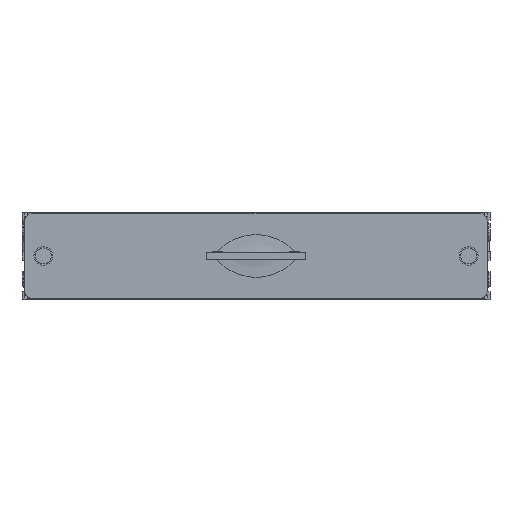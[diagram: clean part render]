
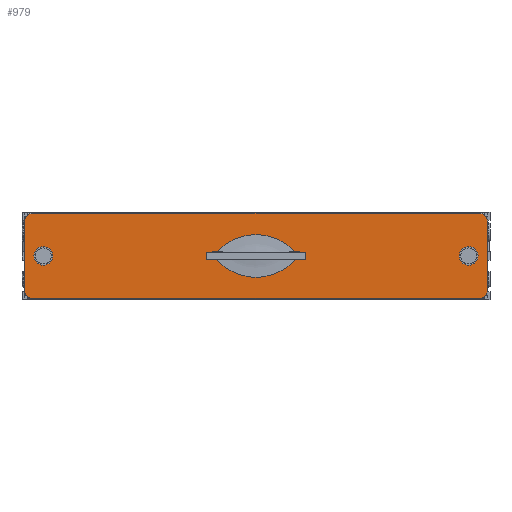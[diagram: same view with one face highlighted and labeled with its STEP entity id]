
A CAD part, top view. The second image highlights one B-rep face of the part: STEP entity #979.
In plain terms, the highlighted planar face has unit normal (0, 0, 1).
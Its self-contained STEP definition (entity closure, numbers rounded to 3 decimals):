
#26 = VERTEX_POINT('',#27);
#27 = CARTESIAN_POINT('',(8.,0.,0.4));
#82 = EDGE_CURVE('',#26,#83,#85,.T.);
#83 = VERTEX_POINT('',#84);
#84 = CARTESIAN_POINT('',(-8.,0.,0.4));
#85 = CIRCLE('',#86,10.);
#86 = AXIS2_PLACEMENT_3D('',#87,#88,#89);
#87 = CARTESIAN_POINT('',(0.,-6.,0.4));
#88 = DIRECTION('',(0.,0.,1.));
#89 = DIRECTION('',(1.,0.,0.));
#488 = EDGE_CURVE('',#83,#26,#489,.T.);
#489 = CIRCLE('',#490,10.);
#490 = AXIS2_PLACEMENT_3D('',#491,#492,#493);
#491 = CARTESIAN_POINT('',(0.,6.,0.4));
#492 = DIRECTION('',(0.,0.,1.));
#493 = DIRECTION('',(-1.,0.,0.));
#979 = ADVANCED_FACE('',(#980,#1050,#1061,#1065),#1076,.T.);
#980 = FACE_BOUND('',#981,.T.);
#981 = EDGE_LOOP('',(#982,#992,#1001,#1009,#1018,#1026,#1035,#1043));
#982 = ORIENTED_EDGE('',*,*,#983,.F.);
#983 = EDGE_CURVE('',#984,#986,#988,.T.);
#984 = VERTEX_POINT('',#985);
#985 = CARTESIAN_POINT('',(-43.5,-6.5,0.4));
#986 = VERTEX_POINT('',#987);
#987 = CARTESIAN_POINT('',(-43.5,6.5,0.4));
#988 = LINE('',#989,#990);
#989 = CARTESIAN_POINT('',(-43.5,-8.,0.4));
#990 = VECTOR('',#991,1.);
#991 = DIRECTION('',(0.,1.,0.));
#992 = ORIENTED_EDGE('',*,*,#993,.T.);
#993 = EDGE_CURVE('',#984,#994,#996,.T.);
#994 = VERTEX_POINT('',#995);
#995 = CARTESIAN_POINT('',(-42.,-8.,0.4));
#996 = CIRCLE('',#997,1.5);
#997 = AXIS2_PLACEMENT_3D('',#998,#999,#1000);
#998 = CARTESIAN_POINT('',(-42.,-6.5,0.4));
#999 = DIRECTION('',(-0.,0.,1.));
#1000 = DIRECTION('',(0.,-1.,0.));
#1001 = ORIENTED_EDGE('',*,*,#1002,.T.);
#1002 = EDGE_CURVE('',#994,#1003,#1005,.T.);
#1003 = VERTEX_POINT('',#1004);
#1004 = CARTESIAN_POINT('',(42.,-8.,0.4));
#1005 = LINE('',#1006,#1007);
#1006 = CARTESIAN_POINT('',(-43.5,-8.,0.4));
#1007 = VECTOR('',#1008,1.);
#1008 = DIRECTION('',(1.,0.,0.));
#1009 = ORIENTED_EDGE('',*,*,#1010,.F.);
#1010 = EDGE_CURVE('',#1011,#1003,#1013,.T.);
#1011 = VERTEX_POINT('',#1012);
#1012 = CARTESIAN_POINT('',(43.5,-6.5,0.4));
#1013 = CIRCLE('',#1014,1.5);
#1014 = AXIS2_PLACEMENT_3D('',#1015,#1016,#1017);
#1015 = CARTESIAN_POINT('',(42.,-6.5,0.4));
#1016 = DIRECTION('',(-0.,-0.,-1.));
#1017 = DIRECTION('',(0.,-1.,0.));
#1018 = ORIENTED_EDGE('',*,*,#1019,.T.);
#1019 = EDGE_CURVE('',#1011,#1020,#1022,.T.);
#1020 = VERTEX_POINT('',#1021);
#1021 = CARTESIAN_POINT('',(43.5,6.5,0.4));
#1022 = LINE('',#1023,#1024);
#1023 = CARTESIAN_POINT('',(43.5,-8.,0.4));
#1024 = VECTOR('',#1025,1.);
#1025 = DIRECTION('',(0.,1.,0.));
#1026 = ORIENTED_EDGE('',*,*,#1027,.T.);
#1027 = EDGE_CURVE('',#1020,#1028,#1030,.T.);
#1028 = VERTEX_POINT('',#1029);
#1029 = CARTESIAN_POINT('',(42.,8.,0.4));
#1030 = CIRCLE('',#1031,1.5);
#1031 = AXIS2_PLACEMENT_3D('',#1032,#1033,#1034);
#1032 = CARTESIAN_POINT('',(42.,6.5,0.4));
#1033 = DIRECTION('',(-0.,0.,1.));
#1034 = DIRECTION('',(0.,-1.,0.));
#1035 = ORIENTED_EDGE('',*,*,#1036,.F.);
#1036 = EDGE_CURVE('',#1037,#1028,#1039,.T.);
#1037 = VERTEX_POINT('',#1038);
#1038 = CARTESIAN_POINT('',(-42.,8.,0.4));
#1039 = LINE('',#1040,#1041);
#1040 = CARTESIAN_POINT('',(-43.5,8.,0.4));
#1041 = VECTOR('',#1042,1.);
#1042 = DIRECTION('',(1.,0.,0.));
#1043 = ORIENTED_EDGE('',*,*,#1044,.F.);
#1044 = EDGE_CURVE('',#986,#1037,#1045,.T.);
#1045 = CIRCLE('',#1046,1.5);
#1046 = AXIS2_PLACEMENT_3D('',#1047,#1048,#1049);
#1047 = CARTESIAN_POINT('',(-42.,6.5,0.4));
#1048 = DIRECTION('',(-0.,-0.,-1.));
#1049 = DIRECTION('',(0.,-1.,0.));
#1050 = FACE_BOUND('',#1051,.T.);
#1051 = EDGE_LOOP('',(#1052));
#1052 = ORIENTED_EDGE('',*,*,#1053,.T.);
#1053 = EDGE_CURVE('',#1054,#1054,#1056,.T.);
#1054 = VERTEX_POINT('',#1055);
#1055 = CARTESIAN_POINT('',(-38.25,0.,0.4));
#1056 = CIRCLE('',#1057,1.75);
#1057 = AXIS2_PLACEMENT_3D('',#1058,#1059,#1060);
#1058 = CARTESIAN_POINT('',(-40.,0.,0.4));
#1059 = DIRECTION('',(0.,0.,-1.));
#1060 = DIRECTION('',(1.,0.,0.));
#1061 = FACE_BOUND('',#1062,.T.);
#1062 = EDGE_LOOP('',(#1063,#1064));
#1063 = ORIENTED_EDGE('',*,*,#82,.F.);
#1064 = ORIENTED_EDGE('',*,*,#488,.F.);
#1065 = FACE_BOUND('',#1066,.T.);
#1066 = EDGE_LOOP('',(#1067));
#1067 = ORIENTED_EDGE('',*,*,#1068,.T.);
#1068 = EDGE_CURVE('',#1069,#1069,#1071,.T.);
#1069 = VERTEX_POINT('',#1070);
#1070 = CARTESIAN_POINT('',(41.75,0.,0.4));
#1071 = CIRCLE('',#1072,1.75);
#1072 = AXIS2_PLACEMENT_3D('',#1073,#1074,#1075);
#1073 = CARTESIAN_POINT('',(40.,0.,0.4));
#1074 = DIRECTION('',(0.,0.,-1.));
#1075 = DIRECTION('',(1.,0.,0.));
#1076 = PLANE('',#1077);
#1077 = AXIS2_PLACEMENT_3D('',#1078,#1079,#1080);
#1078 = CARTESIAN_POINT('',(-43.5,-8.,0.4));
#1079 = DIRECTION('',(0.,0.,1.));
#1080 = DIRECTION('',(1.,0.,0.));
